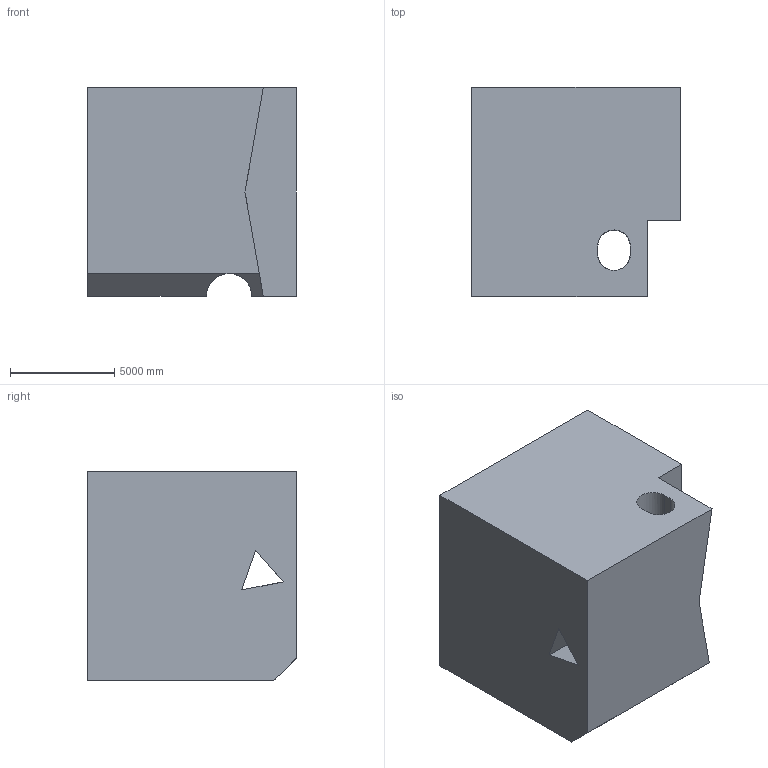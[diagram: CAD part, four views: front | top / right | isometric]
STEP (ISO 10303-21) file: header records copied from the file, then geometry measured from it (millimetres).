
FILE_DESCRIPTION (( 'STEP AP203' ), '1' );
FILE_NAME ('142.STEP', '2022-09-05T15:42:45', ( 'user' ), ( '' ), 'SwSTEP 2.0', 'SolidWorks 2021', '' );
FILE_SCHEMA (( 'CONFIG_CONTROL_DESIGN' ));
Length unit declared in the file: centimetre
Products named in the file (1): 142
Bounding box: 10000 x 10000 x 10000 mm (x, y, z)
Volume: 869982460938.7 mm3; surface area: 669728520.6 mm2
Topology: 1 solids, 1 shells, 25 faces, 78 edges, 52 vertices
Faces by surface type: plane 21, cylinder 4
Entity records: 1199 total; most frequent: CARTESIAN_POINT 450, ORIENTED_EDGE 156, DIRECTION 120, EDGE_CURVE 78, LINE 60, VECTOR 60, VERTEX_POINT 52, AXIS2_PLACEMENT_3D 30
